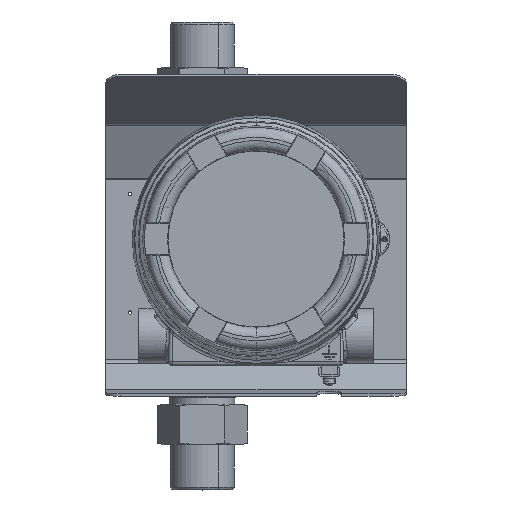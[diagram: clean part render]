
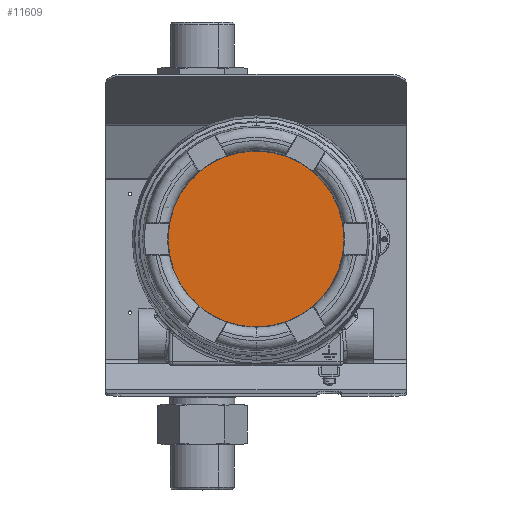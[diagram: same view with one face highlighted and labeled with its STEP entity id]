
A CAD part, top view. The second image highlights one B-rep face of the part: STEP entity #11609.
In plain terms, the highlighted planar face has unit normal (0, 0, 1).
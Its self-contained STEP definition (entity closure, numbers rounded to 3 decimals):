
#1016 = CARTESIAN_POINT ( 'NONE',  ( -64.414, 10.55, 209.364 ) ) ;
#3339 = CARTESIAN_POINT ( 'NONE',  ( 0., 10.55, 209.364 ) ) ;
#8878 = VERTEX_POINT ( 'NONE', #1016 ) ;
#9069 = CARTESIAN_POINT ( 'NONE',  ( 64.414, 10.55, 209.364 ) ) ;
#11003 = ORIENTED_EDGE ( 'NONE', *, *, #13077, .T. ) ;
#11609 = ADVANCED_FACE ( 'NONE', ( #13934 ), #35559, .T. ) ;
#12608 = ORIENTED_EDGE ( 'NONE', *, *, #16259, .T. ) ;
#13077 = EDGE_CURVE ( 'NONE', #8878, #16579, #44989, .T. ) ;
#13934 = FACE_OUTER_BOUND ( 'NONE', #44938, .T. ) ;
#14127 = AXIS2_PLACEMENT_3D ( 'NONE', #3339, #31581, #16995 ) ;
#16259 = EDGE_CURVE ( 'NONE', #16579, #8878, #18237, .T. ) ;
#16458 = AXIS2_PLACEMENT_3D ( 'NONE', #25398, #39716, #43715 ) ;
#16579 = VERTEX_POINT ( 'NONE', #9069 ) ;
#16995 = DIRECTION ( 'NONE',  ( 1., 0., 0. ) ) ;
#18237 = CIRCLE ( 'NONE', #45237, 64.414 ) ;
#25398 = CARTESIAN_POINT ( 'NONE',  ( 0., 10.55, 209.364 ) ) ;
#28599 = DIRECTION ( 'NONE',  ( 1., 0., 0. ) ) ;
#31581 = DIRECTION ( 'NONE',  ( 0., 0., 1. ) ) ;
#35559 = PLANE ( 'NONE',  #14127 ) ;
#35649 = CARTESIAN_POINT ( 'NONE',  ( 0., 10.55, 209.364 ) ) ;
#38456 = DIRECTION ( 'NONE',  ( 0., 0., 1. ) ) ;
#39716 = DIRECTION ( 'NONE',  ( 0., 0., 1. ) ) ;
#43715 = DIRECTION ( 'NONE',  ( 1., 0., 0. ) ) ;
#44938 = EDGE_LOOP ( 'NONE', ( #11003, #12608 ) ) ;
#44989 = CIRCLE ( 'NONE', #16458, 64.414 ) ;
#45237 = AXIS2_PLACEMENT_3D ( 'NONE', #35649, #38456, #28599 ) ;
